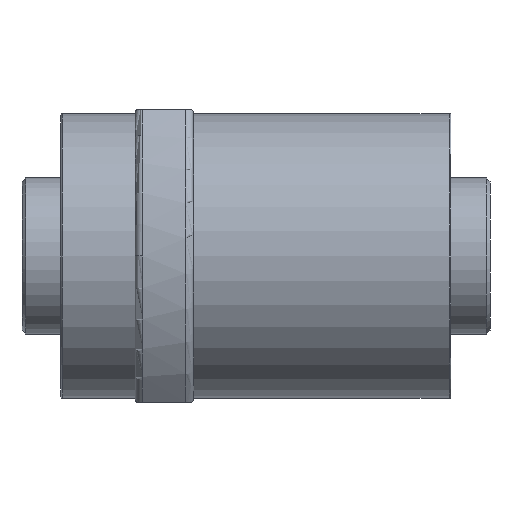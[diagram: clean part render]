
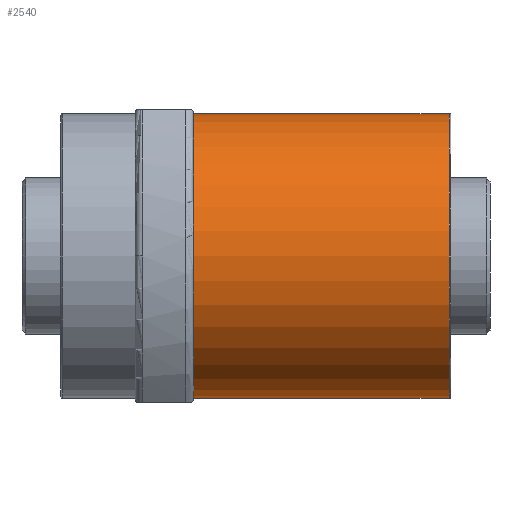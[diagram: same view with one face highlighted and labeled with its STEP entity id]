
A CAD part, front view. The second image highlights one B-rep face of the part: STEP entity #2540.
In plain terms, the highlighted cylindrical face has radius 36.5 mm (diameter 73 mm), a partial arc.
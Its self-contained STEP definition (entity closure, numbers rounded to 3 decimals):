
#32 = CARTESIAN_POINT ( 'NONE',  ( 99.5, 0., 0. ) ) ;
#81 = VECTOR ( 'NONE', #2436, 1000. ) ;
#211 = CYLINDRICAL_SURFACE ( 'NONE', #1741, 36.5 ) ;
#390 = AXIS2_PLACEMENT_3D ( 'NONE', #2289, #2478, #1536 ) ;
#432 = EDGE_CURVE ( 'NONE', #2492, #2628, #1504, .T. ) ;
#696 = CARTESIAN_POINT ( 'NONE',  ( 34.5, 0., -36.5 ) ) ;
#789 = VERTEX_POINT ( 'NONE', #2347 ) ;
#861 = ORIENTED_EDGE ( 'NONE', *, *, #2032, .T. ) ;
#873 = CARTESIAN_POINT ( 'NONE',  ( 34., 0., 36.5 ) ) ;
#908 = VERTEX_POINT ( 'NONE', #2314 ) ;
#946 = ORIENTED_EDGE ( 'NONE', *, *, #2772, .F. ) ;
#1003 = DIRECTION ( 'NONE',  ( -1., 0., 0. ) ) ;
#1047 = CIRCLE ( 'NONE', #2180, 36.5 ) ;
#1190 = DIRECTION ( 'NONE',  ( 1., 0., 0. ) ) ;
#1192 = EDGE_CURVE ( 'NONE', #908, #789, #1047, .T. ) ;
#1245 = DIRECTION ( 'NONE',  ( 0., 0., -1. ) ) ;
#1260 = FACE_OUTER_BOUND ( 'NONE', #1641, .T. ) ;
#1426 = LINE ( 'NONE', #696, #2175 ) ;
#1450 = LINE ( 'NONE', #1499, #81 ) ;
#1499 = CARTESIAN_POINT ( 'NONE',  ( 34.5, 0., 36.5 ) ) ;
#1504 = CIRCLE ( 'NONE', #390, 36.5 ) ;
#1536 = DIRECTION ( 'NONE',  ( 0., 0., -1. ) ) ;
#1641 = EDGE_LOOP ( 'NONE', ( #946, #2112, #861, #3142 ) ) ;
#1741 = AXIS2_PLACEMENT_3D ( 'NONE', #2163, #1190, #3116 ) ;
#1974 = CARTESIAN_POINT ( 'NONE',  ( 34., 0., -36.5 ) ) ;
#2032 = EDGE_CURVE ( 'NONE', #2628, #908, #1426, .T. ) ;
#2112 = ORIENTED_EDGE ( 'NONE', *, *, #432, .T. ) ;
#2163 = CARTESIAN_POINT ( 'NONE',  ( 34.5, 0., 0. ) ) ;
#2175 = VECTOR ( 'NONE', #2620, 1000. ) ;
#2180 = AXIS2_PLACEMENT_3D ( 'NONE', #32, #1003, #1245 ) ;
#2289 = CARTESIAN_POINT ( 'NONE',  ( 34., 0., 0. ) ) ;
#2314 = CARTESIAN_POINT ( 'NONE',  ( 99.5, 0., -36.5 ) ) ;
#2347 = CARTESIAN_POINT ( 'NONE',  ( 99.5, 0., 36.5 ) ) ;
#2436 = DIRECTION ( 'NONE',  ( 1., 0., 0. ) ) ;
#2478 = DIRECTION ( 'NONE',  ( 1., 0., 0. ) ) ;
#2492 = VERTEX_POINT ( 'NONE', #873 ) ;
#2540 = ADVANCED_FACE ( 'NONE', ( #1260 ), #211, .T. ) ;
#2620 = DIRECTION ( 'NONE',  ( 1., 0., 0. ) ) ;
#2628 = VERTEX_POINT ( 'NONE', #1974 ) ;
#2772 = EDGE_CURVE ( 'NONE', #2492, #789, #1450, .T. ) ;
#3116 = DIRECTION ( 'NONE',  ( 0., 0., -1. ) ) ;
#3142 = ORIENTED_EDGE ( 'NONE', *, *, #1192, .T. ) ;
